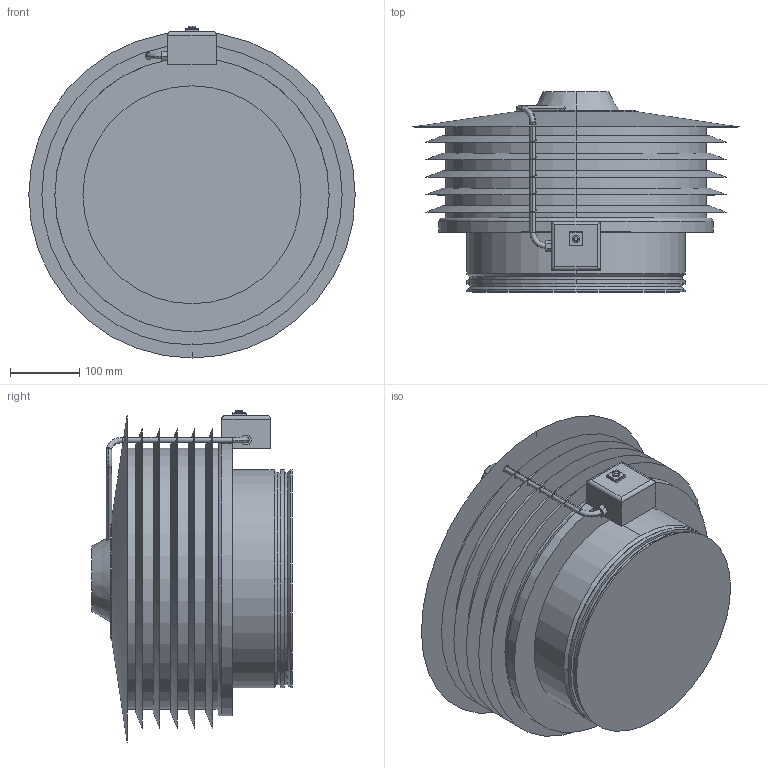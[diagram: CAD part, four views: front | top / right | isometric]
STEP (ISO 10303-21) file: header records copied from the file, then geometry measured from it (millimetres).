
FILE_DESCRIPTION(('STEP AP214'),'1');
FILE_NAME('fan_5136896500.stp','2018-06-26T09:26:15',('TraceParts'),('TraceParts S.A.'),'Spatial InterOp 3D',' ',' ');
FILE_SCHEMA(('automotive_design'));
Length unit declared in the file: millimetre
Products named in the file (1): fan_5136896500
Bounding box: 470 x 288 x 478 mm (x, y, z)
Volume: 27073355.9 mm3; surface area: 993834.8 mm2
Topology: 1 solids, 1 shells, 126 faces, 322 edges, 210 vertices
Faces by surface type: cylinder 49, plane 44, cone 18, torus 11, sphere 4
Entity records: 6429 total; most frequent: CARTESIAN_POINT 2375, DIRECTION 678, ORIENTED_EDGE 632, EDGE_CURVE 316, AXIS2_PLACEMENT_3D 276, VERTEX_POINT 210, EDGE_LOOP 158, CIRCLE 145
